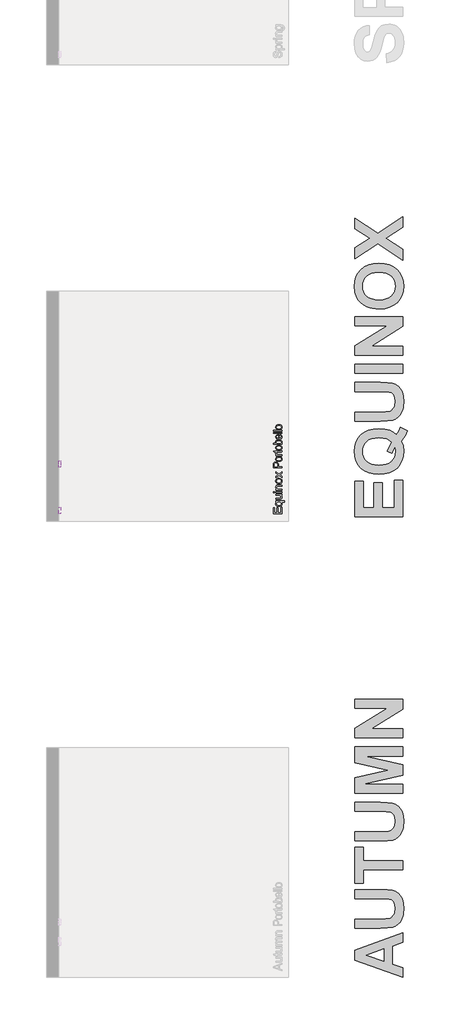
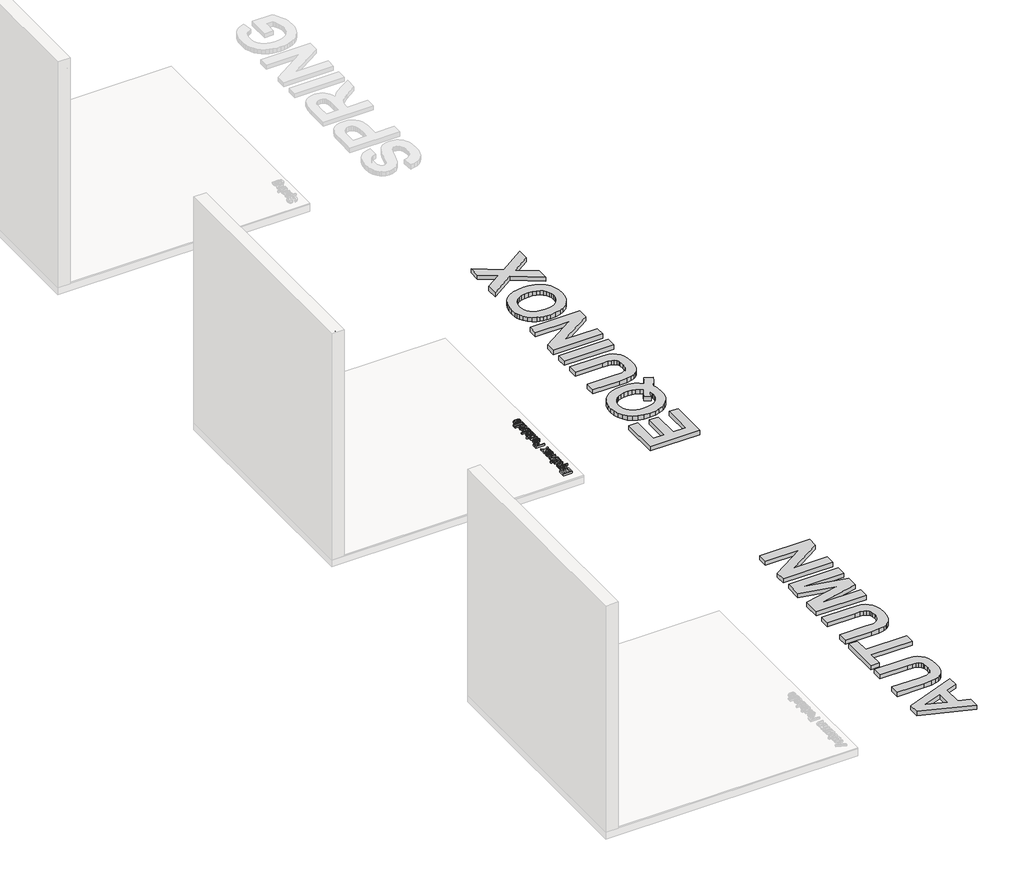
# One storey, part 2 of 7: 6 proxies.
"""IFC4 building model written with IfcOpenShell, lengths in millimetres."""

from ifc_helpers import new_model, si_unit, frame, origin, origin_with_axes, place, context, project, spatial, polyline, outline, extrude, element, save

model = new_model("IFC4")

# Units and contexts
model_context = context("Model", 3, world=origin())
ifc_project = project(units=[si_unit("LENGTHUNIT", "METRE", prefix="MILLI")], contexts=[model_context])

# Site, building, storey
site = spatial("IfcSite", under=ifc_project)
building = spatial("IfcBuilding", under=site)
storey = spatial("IfcBuildingStorey", under=building, Name="PORTOBELLO - SHOWROOM", Elevation=0.0)

# Proxies
placement = place(None, origin())
element("IfcBuildingElementProxy", 1, Name="10mm Arial", ObjectType="10mm Arial", at=placement, inside=storey, context=model_context, shape_type="SweptSolid", body=[
    extrude(outline(polyline([(-3805.1117068, 2482.3811258), (-3805.1117068, 2582.837436), (-3732.9087339, 2582.837436), (-3732.9087339, 2570.2803972), (-3792.5546681, 2570.2803972), (-3792.5546681, 2540.4574301), (-3736.0479936, 2540.4574301), (-3736.0479936, 2527.9003914), (-3792.5546681, 2527.9003914), (-3792.5546681, 2494.9381646), (-3731.3391041, 2494.9381646), (-3731.3391041, 2482.3811258), (-3805.1117068, 2482.3811258)])), frame((-21807.9634769, 0.0, 0.0), z_axis=(1.0, 0.0, 0.0), x_axis=(0.0, 1.0, 0.0)), (0.0, 0.0, 1.0), 20.0),
    extrude(outline(polyline([(-3668.5539102, 2454.1277886), (-3668.5539102, 2492.436567), (-3676.5246868, 2484.1224339), (-3687.4139939, 2480.811496), (-3699.3517646, 2483.4265238), (-3709.511439, 2491.2716074), (-3716.4644087, 2503.6722963), (-3718.7820653, 2519.9541403), (-3715.1032454, 2539.8442935), (-3704.4346675, 2553.1861472), (-3689.106251, 2557.7233584), (-3677.4321291, 2554.203954), (-3668.5539102, 2543.6457408), (-3668.5539102, 2556.1537286), (-3655.9968715, 2556.1537286), (-3655.9968715, 2454.1277886), (-3668.5539102, 2454.1277886)]), holes=[polyline([(-3706.2250265, 2519.2674272), (-3704.8117465, 2507.9366618), (-3700.5719066, 2499.8432579), (-3694.3577665, 2494.9872155), (-3687.0215864, 2493.3685348), (-3679.9919746, 2494.9075078), (-3674.0108265, 2499.5244268), (-3669.9181393, 2507.2867369), (-3668.5539102, 2518.2618831), (-3669.9917157, 2529.9942531), (-3674.3051321, 2538.4095537), (-3680.5560603, 2543.4771282), (-3687.8064013, 2545.1663197), (-3694.9218522, 2543.5936241), (-3700.8662121, 2538.8755376), (-3704.8853229, 2530.8281189), (-3706.2250265, 2519.2674272)])]), frame((-21807.9634769, 0.0, 0.0), z_axis=(1.0, 0.0, 0.0), x_axis=(0.0, 1.0, 0.0)), (0.0, 0.0, 1.0), 20.0),
    extrude(outline(polyline([(-3590.0724179, 2482.3811258), (-3590.0724179, 2495.0607919), (-3599.9071299, 2484.37382), (-3612.7339488, 2480.811496), (-3624.5429609, 2483.3130936), (-3632.6854157, 2489.5916129), (-3636.4255493, 2498.8377138), (-3637.1613133, 2510.5118357), (-3637.1613133, 2556.1537286), (-3624.6042745, 2556.1537286), (-3624.6042745, 2516.4224731), (-3623.8439851, 2503.6201797), (-3618.8775782, 2496.1031243), (-3609.5211127, 2493.3685348), (-3599.0364759, 2496.1644379), (-3592.1080316, 2503.7795952), (-3590.0724179, 2517.7713738), (-3590.0724179, 2556.1537286), (-3577.5153792, 2556.1537286), (-3577.5153792, 2482.3811258), (-3590.0724179, 2482.3811258)])), frame((-21807.9634769, 0.0, 0.0), z_axis=(1.0, 0.0, 0.0), x_axis=(0.0, 1.0, 0.0)), (0.0, 0.0, 1.0), 20.0),
    extrude(outline(polyline([(-21787.9634769, -3547.6924121), (-21787.9634769, -3560.2494509), (-21807.9634769, -3560.2494509), (-21807.9634769, -3547.6924121), (-21787.9634769, -3547.6924121)])), frame((0.0, 0.0, 2482.3811258), z_axis=(0.0, 0.0, 1.0), x_axis=(1.0, 0.0, 0.0)), (0.0, 0.0, 1.0), 73.7726028),
    extrude(outline(polyline([(-21787.9634769, -3547.6924121), (-21787.9634769, -3560.2494509), (-21807.9634769, -3560.2494509), (-21807.9634769, -3547.6924121), (-21787.9634769, -3547.6924121)])), frame((0.0, 0.0, 2570.2803972), z_axis=(0.0, 0.0, 1.0), x_axis=(1.0, 0.0, 0.0)), (0.0, 0.0, 1.0), 12.5570388),
    extrude(outline(polyline([(-3528.8568539, 2482.3811258), (-3528.8568539, 2556.1537286), (-3516.2998152, 2556.1537286), (-3516.2998152, 2545.8530327), (-3506.6980951, 2554.755777), (-3493.5892333, 2557.7233584), (-3481.7311704, 2555.3321255), (-3473.6377665, 2549.0536061), (-3469.8731074, 2539.819768), (-3469.2109198, 2527.6796622), (-3469.2109198, 2482.3811258), (-3481.7679586, 2482.3811258), (-3481.7679586, 2525.987405), (-3483.2149611, 2537.0974412), (-3488.3285208, 2542.9712904), (-3496.9492222, 2545.1663197), (-3510.5731188, 2540.2367009), (-3514.8681411, 2533.0936589), (-3516.2998152, 2521.5237701), (-3516.2998152, 2482.3811258), (-3528.8568539, 2482.3811258)])), frame((-21807.9634769, 0.0, 0.0), z_axis=(1.0, 0.0, 0.0), x_axis=(0.0, 1.0, 0.0)), (0.0, 0.0, 1.0), 20.0),
    extrude(outline(polyline([(-3455.0842512, 2519.2674272), (-3452.3680558, 2537.0545217), (-3444.2194696, 2549.5563782), (-3434.1517656, 2555.6816134), (-3422.0974989, 2557.7233584), (-3408.9058637, 2555.2370893), (-3398.3691102, 2547.7782818), (-3391.4621258, 2535.9355473), (-3389.1597976, 2520.2974968), (-3393.231025, 2497.954797), (-3405.089088, 2485.3119191), (-3422.0974989, 2480.811496), (-3435.4485497, 2483.2885681), (-3445.9730404, 2490.7197844), (-3452.8064485, 2502.8108393), (-3455.0842512, 2519.2674272)]), holes=[polyline([(-3442.5272124, 2519.2919527), (-3441.0740785, 2507.9274647), (-3436.7146769, 2499.8309951), (-3430.1541146, 2494.9841499), (-3422.0974989, 2493.3685348), (-3414.0776714, 2494.9933469), (-3407.5293719, 2499.8677833), (-3403.1699703, 2508.0715518), (-3401.7168364, 2519.6843601), (-3403.1791673, 2530.7177543), (-3407.5661601, 2538.7038593), (-3414.1236567, 2543.5507046), (-3422.0974989, 2545.1663197), (-3430.1541146, 2543.5568359), (-3436.7146769, 2538.7283848), (-3441.0740785, 2530.6503093), (-3442.5272124, 2519.2919527)])]), frame((-21807.9634769, 0.0, 0.0), z_axis=(1.0, 0.0, 0.0), x_axis=(0.0, 1.0, 0.0)), (0.0, 0.0, 1.0), 20.0),
    extrude(outline(polyline([(-3382.8812783, 2482.3811258), (-3356.0504181, 2519.4636309), (-3381.3116484, 2556.1537286), (-3366.2039611, 2556.1537286), (-3354.0148044, 2538.4953928), (-3348.3248962, 2530.1567343), (-3343.3952774, 2536.9748139), (-3329.5138635, 2556.1537286), (-3314.4061762, 2556.1537286), (-3340.9427308, 2519.4636309), (-3315.3871949, 2482.3811258), (-3330.4948821, 2482.3811258), (-3345.8723495, 2504.6747747), (-3348.6927782, 2508.7460022), (-3367.773591, 2482.3811258), (-3382.8812783, 2482.3811258)])), frame((-21807.9634769, 0.0, 0.0), z_axis=(1.0, 0.0, 0.0), x_axis=(0.0, 1.0, 0.0)), (0.0, 0.0, 1.0), 20.0),
])
element("IfcBuildingElementProxy", 2, Name="10mm Arial", ObjectType="10mm Arial", at=placement, inside=storey, context=model_context, shape_type="SweptSolid", body=[
    extrude(outline(polyline([(-3259.9328663, 2482.3811258), (-3259.9328663, 2582.837436), (-3222.7032084, 2582.837436), (-3207.693623, 2581.8809428), (-3195.4922035, 2577.184316), (-3187.5827406, 2567.4722313), (-3184.5906337, 2553.7747584), (-3186.610919, 2541.9350895), (-3192.6717749, 2532.0697206), (-3204.005606, 2525.4110565), (-3221.8448171, 2523.1915018), (-3247.3758276, 2523.1915018), (-3247.3758276, 2482.3811258), (-3259.9328663, 2482.3811258)]), holes=[polyline([(-3247.3758276, 2535.7485406), (-3221.1090531, 2535.7485406), (-3202.6168515, 2540.3593283), (-3198.5149672, 2545.908215), (-3197.1476725, 2553.3333), (-3200.3727713, 2563.7320977), (-3208.8463199, 2569.4220059), (-3221.4033587, 2570.2803972), (-3247.3758276, 2570.2803972), (-3247.3758276, 2535.7485406)])]), frame((-21807.9634769, 0.0, 0.0), z_axis=(1.0, 0.0, 0.0), x_axis=(0.0, 1.0, 0.0)), (0.0, 0.0, 1.0), 20.0),
    extrude(outline(polyline([(-3172.033595, 2519.2674272), (-3169.3173996, 2537.0545217), (-3161.1688134, 2549.5563782), (-3151.1011094, 2555.6816134), (-3139.0468427, 2557.7233584), (-3125.8552075, 2555.2370893), (-3115.318454, 2547.7782818), (-3108.4114696, 2535.9355473), (-3106.1091414, 2520.2974968), (-3110.1803688, 2497.954797), (-3122.0384318, 2485.3119191), (-3139.0468427, 2480.811496), (-3152.3978935, 2483.2885681), (-3162.9223842, 2490.7197844), (-3169.7557923, 2502.8108393), (-3172.033595, 2519.2674272)]), holes=[polyline([(-3159.4765562, 2519.2919527), (-3158.0234223, 2507.9274647), (-3153.6640207, 2499.8309951), (-3147.1034584, 2494.9841499), (-3139.0468427, 2493.3685348), (-3131.0270152, 2494.9933469), (-3124.4787157, 2499.8677833), (-3120.1193141, 2508.0715518), (-3118.6661802, 2519.6843601), (-3120.1285111, 2530.7177543), (-3124.5155039, 2538.7038593), (-3131.0730005, 2543.5507046), (-3139.0468427, 2545.1663197), (-3147.1034584, 2543.5568359), (-3153.6640207, 2538.7283848), (-3158.0234223, 2530.6503093), (-3159.4765562, 2519.2919527)])]), frame((-21807.9634769, 0.0, 0.0), z_axis=(1.0, 0.0, 0.0), x_axis=(0.0, 1.0, 0.0)), (0.0, 0.0, 1.0), 20.0),
    extrude(outline(polyline([(-3091.9824728, 2482.3811258), (-3091.9824728, 2556.1537286), (-3080.9950639, 2556.1537286), (-3080.9950639, 2545.2398961), (-3073.1959656, 2555.2953373), (-3065.3478164, 2557.7233584), (-3052.7417267, 2553.8483348), (-3056.9355814, 2542.5911457), (-3065.7647493, 2545.1663197), (-3072.8648718, 2542.6892476), (-3077.3898203, 2535.822117), (-3079.425434, 2521.1558881), (-3079.425434, 2482.3811258), (-3091.9824728, 2482.3811258)])), frame((-21807.9634769, 0.0, 0.0), z_axis=(1.0, 0.0, 0.0), x_axis=(0.0, 1.0, 0.0)), (0.0, 0.0, 1.0), 20.0),
    extrude(outline(polyline([(-3018.20987, 2492.8535), (-3016.6402402, 2482.0132438), (-3026.0334938, 2480.811496), (-3036.5549189, 2482.8961606), (-3041.8033687, 2488.3653396), (-3043.3239476, 2502.6146356), (-3043.3239476, 2543.5966898), (-3052.7417267, 2543.5966898), (-3052.7417267, 2553.8483348), (-3052.7417267, 2556.1537286), (-3043.3239476, 2556.1537286), (-3043.3239476, 2574.0818445), (-3030.7669088, 2581.4640099), (-3030.7669088, 2556.1537286), (-3018.20987, 2556.1537286), (-3018.20987, 2543.5966898), (-3030.7669088, 2543.5966898), (-3030.7669088, 2502.9825176), (-3030.1047212, 2496.5077944), (-3027.9587429, 2494.2146633), (-3023.679049, 2493.3685348), (-3018.20987, 2492.8535)])), frame((-21807.9634769, 0.0, 0.0), z_axis=(1.0, 0.0, 0.0), x_axis=(0.0, 1.0, 0.0)), (0.0, 0.0, 1.0), 20.0),
    extrude(outline(polyline([(-3008.792091, 2519.2674272), (-3006.0758956, 2537.0545217), (-2997.9273094, 2549.5563782), (-2987.8596054, 2555.6816134), (-2975.8053387, 2557.7233584), (-2962.6137035, 2555.2370893), (-2952.07695, 2547.7782818), (-2945.1699656, 2535.9355473), (-2942.8676374, 2520.2974968), (-2946.9388648, 2497.954797), (-2958.7969278, 2485.3119191), (-2975.8053387, 2480.811496), (-2989.1563895, 2483.2885681), (-2999.6808802, 2490.7197844), (-3006.5142883, 2502.8108393), (-3008.792091, 2519.2674272)]), holes=[polyline([(-2996.2350522, 2519.2919527), (-2994.7819183, 2507.9274647), (-2990.4225167, 2499.8309951), (-2983.8619544, 2494.9841499), (-2975.8053387, 2493.3685348), (-2967.7855112, 2494.9933469), (-2961.2372117, 2499.8677833), (-2956.8778101, 2508.0715518), (-2955.4246762, 2519.6843601), (-2956.8870071, 2530.7177543), (-2961.2739999, 2538.7038593), (-2967.8314965, 2543.5507046), (-2975.8053387, 2545.1663197), (-2983.8619544, 2543.5568359), (-2990.4225167, 2538.7283848), (-2994.7819183, 2530.6503093), (-2996.2350522, 2519.2919527)])]), frame((-21807.9634769, 0.0, 0.0), z_axis=(1.0, 0.0, 0.0), x_axis=(0.0, 1.0, 0.0)), (0.0, 0.0, 1.0), 20.0),
    extrude(outline(polyline([(-2916.1839301, 2482.3811258), (-2928.7409688, 2482.3811258), (-2928.7409688, 2582.837436), (-2916.1839301, 2582.837436), (-2916.1839301, 2545.5832526), (-2907.3915504, 2554.688332), (-2896.4654551, 2557.7233584), (-2883.8838909, 2554.9887689), (-2874.1227553, 2547.3000352), (-2868.1262787, 2535.3438704), (-2865.955775, 2520.3710732), (-2868.2029208, 2503.607917), (-2874.9443584, 2491.1367173), (-2884.8373184, 2483.3928013), (-2896.5390315, 2480.811496), (-2907.7042501, 2484.140828), (-2916.1839301, 2494.1288242), (-2916.1839301, 2482.3811258)]), holes=[polyline([(-2916.1839301, 2519.782462), (-2912.7503648, 2502.2222281), (-2906.1714084, 2495.5819581), (-2897.618152, 2493.3685348), (-2890.3708767, 2494.9994783), (-2884.1781965, 2499.8923088), (-2879.9291594, 2508.0163695), (-2878.5128137, 2519.3410036), (-2879.8709114, 2530.8311846), (-2883.9452045, 2538.8632748), (-2889.9447467, 2543.5905585), (-2897.0785918, 2545.1663197), (-2904.3258671, 2543.5353762), (-2910.5185473, 2538.6425456), (-2914.7675844, 2530.6656377), (-2916.1839301, 2519.782462)])]), frame((-21807.9634769, 0.0, 0.0), z_axis=(1.0, 0.0, 0.0), x_axis=(0.0, 1.0, 0.0)), (0.0, 0.0, 1.0), 20.0),
    extrude(outline(polyline([(-2800.1784742, 2504.3559437), (-2787.8666901, 2502.7863138), (-2792.3027339, 2493.5095562), (-2799.3813966, 2486.5749806), (-2808.9432628, 2482.2523671), (-2820.8289169, 2480.811496), (-2835.5625908, 2483.2977651), (-2846.8994876, 2490.7565726), (-2854.1283688, 2502.7035404), (-2856.5379959, 2518.6542906), (-2854.1038434, 2535.1415353), (-2846.8013858, 2547.4717135), (-2835.6177731, 2555.1604472), (-2821.5401554, 2557.7233584), (-2807.9009305, 2555.1665786), (-2797.0024263, 2547.496239), (-2789.8563186, 2535.1905862), (-2787.4742827, 2518.727867), (-2787.5478591, 2515.3433526), (-2843.9809571, 2515.3433526), (-2841.8073877, 2505.9439676), (-2836.7582073, 2499.0339175), (-2829.4710781, 2494.7848804), (-2820.5836622, 2493.3685348), (-2808.2718781, 2495.9927597), (-2800.1784742, 2504.3559437)]), holes=[polyline([(-2843.9809571, 2527.9003914), (-2800.0313214, 2527.9003914), (-2805.059042, 2539.2802078), (-2812.3798937, 2543.6947917), (-2821.5892064, 2545.1663197), (-2837.0525129, 2540.4696929), (-2841.9177523, 2534.9790541), (-2843.9809571, 2527.9003914)])]), frame((-21807.9634769, 0.0, 0.0), z_axis=(1.0, 0.0, 0.0), x_axis=(0.0, 1.0, 0.0)), (0.0, 0.0, 1.0), 20.0),
    extrude(outline(polyline([(-21787.9634769, -2762.3602051), (-21787.9634769, -2774.9172439), (-21807.9634769, -2774.9172439), (-21807.9634769, -2762.3602051), (-21787.9634769, -2762.3602051)])), frame((0.0, 0.0, 2482.3811258), z_axis=(0.0, 0.0, 1.0), x_axis=(1.0, 0.0, 0.0)), (0.0, 0.0, 1.0), 100.4563101),
    extrude(outline(polyline([(-21787.9634769, -2730.9676082), (-21787.9634769, -2743.524647), (-21807.9634769, -2743.524647), (-21807.9634769, -2730.9676082), (-21787.9634769, -2730.9676082)])), frame((0.0, 0.0, 2482.3811258), z_axis=(0.0, 0.0, 1.0), x_axis=(1.0, 0.0, 0.0)), (0.0, 0.0, 1.0), 100.4563101),
    extrude(outline(polyline([(-2715.2713098, 2519.2674272), (-2712.5551144, 2537.0545217), (-2704.4065282, 2549.5563782), (-2694.3388242, 2555.6816134), (-2682.2845575, 2557.7233584), (-2669.0929223, 2555.2370893), (-2658.5561688, 2547.7782818), (-2651.6491844, 2535.9355473), (-2649.3468562, 2520.2974968), (-2653.4180836, 2497.954797), (-2665.2761466, 2485.3119191), (-2682.2845575, 2480.811496), (-2695.6356083, 2483.2885681), (-2706.160099, 2490.7197844), (-2712.9935071, 2502.8108393), (-2715.2713098, 2519.2674272)]), holes=[polyline([(-2702.714271, 2519.2919527), (-2701.2611371, 2507.9274647), (-2696.9017355, 2499.8309951), (-2690.3411732, 2494.9841499), (-2682.2845575, 2493.3685348), (-2674.26473, 2494.9933469), (-2667.7164305, 2499.8677833), (-2663.3570289, 2508.0715518), (-2661.903895, 2519.6843601), (-2663.3662259, 2530.7177543), (-2667.7532187, 2538.7038593), (-2674.3107153, 2543.5507046), (-2682.2845575, 2545.1663197), (-2690.3411732, 2543.5568359), (-2696.9017355, 2538.7283848), (-2701.2611371, 2530.6503093), (-2702.714271, 2519.2919527)])]), frame((-21807.9634769, 0.0, 0.0), z_axis=(1.0, 0.0, 0.0), x_axis=(0.0, 1.0, 0.0)), (0.0, 0.0, 1.0), 20.0),
])
element("IfcBuildingElementProxy", 3, Name="10mm Arial", ObjectType="10mm Arial", at=placement, inside=storey, context=model_context, shape_type="SweptSolid", body=[
    extrude(outline(polyline([(-19183.5351931, -3805.1117068), (-19283.9915032, -3805.1117068), (-19283.9915032, -3732.9087339), (-19271.4344645, -3732.9087339), (-19271.4344645, -3792.5546681), (-19241.6114974, -3792.5546681), (-19241.6114974, -3736.0479936), (-19229.0544586, -3736.0479936), (-19229.0544586, -3792.5546681), (-19196.0922319, -3792.5546681), (-19196.0922319, -3731.3391041), (-19183.5351931, -3731.3391041), (-19183.5351931, -3805.1117068)])), frame((0.0, 0.0, 15.0), z_axis=(0.0, 0.0, 1.0), x_axis=(1.0, 0.0, 0.0)), (0.0, 0.0, 1.0), 20.0),
    extrude(outline(polyline([(-19155.2818559, -3668.5539102), (-19193.5906343, -3668.5539102), (-19185.2765012, -3676.5246868), (-19181.9655632, -3687.4139939), (-19184.5805911, -3699.3517646), (-19192.4256746, -3709.511439), (-19204.8263636, -3716.4644087), (-19221.1082075, -3718.7820653), (-19240.9983607, -3715.1032454), (-19254.3402144, -3704.4346675), (-19258.8774257, -3689.106251), (-19255.3580213, -3677.4321291), (-19244.799808, -3668.5539102), (-19257.3077959, -3668.5539102), (-19257.3077959, -3655.9968715), (-19155.2818559, -3655.9968715), (-19155.2818559, -3668.5539102)]), holes=[polyline([(-19220.4214945, -3706.2250265), (-19209.090729, -3704.8117465), (-19200.9973251, -3700.5719066), (-19196.1412828, -3694.3577665), (-19194.522602, -3687.0215864), (-19196.061575, -3679.9919746), (-19200.6784941, -3674.0108265), (-19208.4408042, -3669.9181393), (-19219.4159504, -3668.5539102), (-19231.1483203, -3669.9917157), (-19239.563621, -3674.3051321), (-19244.6311954, -3680.5560603), (-19246.3203869, -3687.8064013), (-19244.7476914, -3694.9218522), (-19240.0296048, -3700.8662121), (-19231.9821862, -3704.8853229), (-19220.4214945, -3706.2250265)])]), frame((0.0, 0.0, 15.0), z_axis=(0.0, 0.0, 1.0), x_axis=(1.0, 0.0, 0.0)), (0.0, 0.0, 1.0), 20.0),
    extrude(outline(polyline([(-19183.5351931, -3590.0724179), (-19196.2148592, -3590.0724179), (-19185.5278872, -3599.9071299), (-19181.9655632, -3612.7339488), (-19184.4671608, -3624.5429609), (-19190.7456802, -3632.6854157), (-19199.991781, -3636.4255493), (-19211.665903, -3637.1613133), (-19257.3077959, -3637.1613133), (-19257.3077959, -3624.6042745), (-19217.5765404, -3624.6042745), (-19204.7742469, -3623.8439851), (-19197.2571915, -3618.8775782), (-19194.522602, -3609.5211127), (-19197.3185052, -3599.0364759), (-19204.9336625, -3592.1080316), (-19218.925441, -3590.0724179), (-19257.3077959, -3590.0724179), (-19257.3077959, -3577.5153792), (-19183.5351931, -3577.5153792), (-19183.5351931, -3590.0724179)])), frame((0.0, 0.0, 15.0), z_axis=(0.0, 0.0, 1.0), x_axis=(1.0, 0.0, 0.0)), (0.0, 0.0, 1.0), 20.0),
    extrude(outline(polyline([(-19271.4344645, -3560.2494509), (-19283.9915032, -3560.2494509), (-19283.9915032, -3547.6924121), (-19271.4344645, -3547.6924121), (-19271.4344645, -3560.2494509)])), frame((0.0, 0.0, 15.0), z_axis=(0.0, 0.0, 1.0), x_axis=(1.0, 0.0, 0.0)), (0.0, 0.0, 1.0), 20.0),
    extrude(outline(polyline([(-19183.5351931, -3560.2494509), (-19257.3077959, -3560.2494509), (-19257.3077959, -3547.6924121), (-19183.5351931, -3547.6924121), (-19183.5351931, -3560.2494509)])), frame((0.0, 0.0, 15.0), z_axis=(0.0, 0.0, 1.0), x_axis=(1.0, 0.0, 0.0)), (0.0, 0.0, 1.0), 20.0),
    extrude(outline(polyline([(-19183.5351931, -3528.8568539), (-19257.3077959, -3528.8568539), (-19257.3077959, -3516.2998152), (-19247.0071, -3516.2998152), (-19255.9098443, -3506.6980951), (-19258.8774257, -3493.5892333), (-19256.4861927, -3481.7311704), (-19250.2076733, -3473.6377665), (-19240.9738353, -3469.8731074), (-19228.8337294, -3469.2109198), (-19183.5351931, -3469.2109198), (-19183.5351931, -3481.7679586), (-19227.1414722, -3481.7679586), (-19238.2515085, -3483.2149611), (-19244.1253577, -3488.3285208), (-19246.3203869, -3496.9492222), (-19241.3907682, -3510.5731188), (-19234.2477261, -3514.8681411), (-19222.6778374, -3516.2998152), (-19183.5351931, -3516.2998152), (-19183.5351931, -3528.8568539)])), frame((0.0, 0.0, 15.0), z_axis=(0.0, 0.0, 1.0), x_axis=(1.0, 0.0, 0.0)), (0.0, 0.0, 1.0), 20.0),
    extrude(outline(polyline([(-19220.4214945, -3455.0842512), (-19238.2085889, -3452.3680558), (-19250.7104454, -3444.2194696), (-19256.8356806, -3434.1517656), (-19258.8774257, -3422.0974989), (-19256.3911565, -3408.9058637), (-19248.9323491, -3398.3691102), (-19237.0896145, -3391.4621258), (-19221.4515641, -3389.1597976), (-19199.1088642, -3393.231025), (-19186.4659863, -3405.089088), (-19181.9655632, -3422.0974989), (-19184.4426353, -3435.4485497), (-19191.8738516, -3445.9730404), (-19203.9649066, -3452.8064485), (-19220.4214945, -3455.0842512)]), holes=[polyline([(-19220.4460199, -3442.5272124), (-19209.081532, -3441.0740785), (-19200.9850624, -3436.7146769), (-19196.1382171, -3430.1541146), (-19194.522602, -3422.0974989), (-19196.1474142, -3414.0776714), (-19201.0218506, -3407.5293719), (-19209.2256191, -3403.1699703), (-19220.8384274, -3401.7168364), (-19231.8718216, -3403.1791673), (-19239.8579265, -3407.5661601), (-19244.7047718, -3414.1236567), (-19246.3203869, -3422.0974989), (-19244.7109032, -3430.1541146), (-19239.882452, -3436.7146769), (-19231.8043765, -3441.0740785), (-19220.4460199, -3442.5272124)])]), frame((0.0, 0.0, 15.0), z_axis=(0.0, 0.0, 1.0), x_axis=(1.0, 0.0, 0.0)), (0.0, 0.0, 1.0), 20.0),
    extrude(outline(polyline([(-19183.5351931, -3382.8812783), (-19220.6176982, -3356.0504181), (-19257.3077959, -3381.3116484), (-19257.3077959, -3366.2039611), (-19239.6494601, -3354.0148044), (-19231.3108015, -3348.3248962), (-19238.1288812, -3343.3952774), (-19257.3077959, -3329.5138635), (-19257.3077959, -3314.4061762), (-19220.6176982, -3340.9427308), (-19183.5351931, -3315.3871949), (-19183.5351931, -3330.4948821), (-19205.828842, -3345.8723495), (-19209.9000694, -3348.6927782), (-19183.5351931, -3367.773591), (-19183.5351931, -3382.8812783)])), frame((0.0, 0.0, 15.0), z_axis=(0.0, 0.0, 1.0), x_axis=(1.0, 0.0, 0.0)), (0.0, 0.0, 1.0), 20.0),
])
element("IfcBuildingElementProxy", 4, Name="10mm Arial Narrow", ObjectType="10mm Arial Narrow", at=placement, inside=storey, context=model_context, shape_type="SweptSolid", body=[
    extrude(outline(polyline([(-19183.5351931, -3262.7978072), (-19284.2537968, -3262.7978072), (-19284.2537968, -3231.5009225), (-19282.3754761, -3215.205221), (-19272.8950329, -3203.7322349), (-19255.8759241, -3199.4425565), (-19243.8000986, -3201.2288649), (-19234.1737048, -3206.5877901), (-19227.8724464, -3216.3315789), (-19225.7720269, -3231.2724781), (-19225.7720269, -3253.0508456), (-19183.5351931, -3253.0508456), (-19183.5351931, -3262.7978072)]), holes=[polyline([(-19237.1434822, -3253.0508456), (-19237.1434822, -3230.0794906), (-19241.6742964, -3214.2152952), (-19255.3428871, -3209.1895181), (-19265.5086636, -3211.6643326), (-19271.3086134, -3217.6419614), (-19272.8823416, -3230.307935), (-19272.8823416, -3253.0508456), (-19237.1434822, -3253.0508456)])]), frame((0.0, 0.0, 15.0), z_axis=(0.0, 0.0, 1.0), x_axis=(1.0, 0.0, 0.0)), (0.0, 0.0, 1.0), 20.0),
    extrude(outline(polyline([(-19220.0862993, -3191.3200884), (-19236.6770748, -3189.3656196), (-19248.6291597, -3183.5022129), (-19255.8537142, -3174.6436462), (-19258.2618991, -3163.7036971), (-19255.8537142, -3152.8906615), (-19248.6291597, -3144.0067121), (-19236.8674452, -3138.0671573), (-19220.8477807, -3136.0873057), (-19203.6858941, -3138.0322561), (-19191.5434389, -3143.8671071), (-19184.3188843, -3152.7161553), (-19181.9106995, -3163.7036971), (-19184.32523, -3174.5643252), (-19191.5688216, -3183.4387562), (-19203.5272521, -3189.3497554), (-19220.0862993, -3191.3200884)]), holes=[polyline([(-19220.111682, -3181.5731268), (-19207.5599306, -3180.2690899), (-19198.6886725, -3176.3569793), (-19193.415414, -3170.5157826), (-19191.6576611, -3163.4244872), (-19193.4312782, -3156.7044141), (-19198.7521293, -3151.0123408), (-19207.6392516, -3147.1287857), (-19220.111682, -3145.8342674), (-19232.6253593, -3147.1383042), (-19241.483926, -3151.0504148), (-19246.7571846, -3156.8916116), (-19248.5149374, -3163.9829069), (-19246.7476661, -3170.7505727), (-19241.445852, -3176.4331275), (-19232.5777667, -3180.2881269), (-19220.111682, -3181.5731268)])]), frame((0.0, 0.0, 15.0), z_axis=(0.0, 0.0, 1.0), x_axis=(1.0, 0.0, 0.0)), (0.0, 0.0, 1.0), 20.0),
    extrude(outline(polyline([(-19191.6576611, -3064.6095869), (-19181.9106995, -3062.9850933), (-19181.9106995, -3070.34608), (-19184.030156, -3078.6208443), (-19189.8301058, -3082.9359055), (-19204.475931, -3084.1035102), (-19246.8904438, -3084.1035102), (-19246.8904438, -3092.2259783), (-19250.1394311, -3092.2259783), (-19245.2659502, -3093.8504719), (-19246.8904438, -3101.4145203), (-19244.5679256, -3107.4936799), (-19238.0826426, -3111.3645436), (-19222.675336, -3113.3443952), (-19183.5351931, -3113.3443952), (-19183.5351931, -3123.0913569), (-19256.6374055, -3123.0913569), (-19256.6374055, -3113.3443952), (-19246.9412093, -3113.3443952), (-19256.0282204, -3107.1002479), (-19258.2618991, -3100.7038043), (-19256.6374055, -3092.2259783), (-19256.6374055, -3084.1035102), (-19272.8823416, -3084.1035102), (-19281.0048096, -3074.3565486), (-19256.6374055, -3074.3565486), (-19256.6374055, -3064.6095869), (-19246.8904438, -3064.6095869), (-19246.8904438, -3074.3565486), (-19202.2422523, -3074.3565486), (-19194.2466978, -3073.4935364), (-19191.6576611, -3068.8738827), (-19191.6576611, -3064.6095869)])), frame((0.0, 0.0, 15.0), z_axis=(0.0, 0.0, 1.0), x_axis=(1.0, 0.0, 0.0)), (0.0, 0.0, 1.0), 20.0),
    extrude(outline(polyline([(-19220.0862993, -3058.1116125), (-19236.6770748, -3056.1571436), (-19248.6291597, -3050.293737), (-19255.8537142, -3041.4351703), (-19258.2618991, -3030.4952211), (-19255.8537142, -3019.6821856), (-19248.6291597, -3010.7982361), (-19236.8674452, -3004.8586814), (-19220.8477807, -3002.8788298), (-19203.6858941, -3004.8237802), (-19191.5434389, -3010.6586312), (-19184.3188843, -3019.5076794), (-19181.9106995, -3030.4952211), (-19184.32523, -3041.3558493), (-19191.5688216, -3050.2302802), (-19203.5272521, -3056.1412794), (-19220.0862993, -3058.1116125)]), holes=[polyline([(-19220.111682, -3048.3646508), (-19207.5599306, -3047.060614), (-19198.6886725, -3043.1485034), (-19193.415414, -3037.3073067), (-19191.6576611, -3030.2160113), (-19193.4312782, -3023.4959381), (-19198.7521293, -3017.8038648), (-19207.6392516, -3013.9203098), (-19220.111682, -3012.6257914), (-19232.6253593, -3013.9298283), (-19241.483926, -3017.8419389), (-19246.7571846, -3023.6831356), (-19248.5149374, -3030.774431), (-19246.7476661, -3037.5420967), (-19241.445852, -3043.2246515), (-19232.5777667, -3047.079651), (-19220.111682, -3048.3646508)])]), frame((0.0, 0.0, 15.0), z_axis=(0.0, 0.0, 1.0), x_axis=(1.0, 0.0, 0.0)), (0.0, 0.0, 1.0), 20.0),
    extrude(outline(polyline([(-19183.5351931, -2980.1359193), (-19183.5351931, -2989.8828809), (-19284.2537968, -2989.8828809), (-19284.2537968, -2980.1359193), (-19248.8449127, -2980.1359193), (-19255.9266895, -2972.7368585), (-19258.2618991, -2963.5356252), (-19254.0610602, -2950.6538985), (-19241.3316298, -2941.3765171), (-19220.644719, -2937.8990854), (-19204.1903755, -2939.8313444), (-19191.9876364, -2945.6281214), (-19184.4299337, -2954.0012438), (-19181.9106995, -2963.6625388), (-19184.5251189, -2973.003377), (-19192.2922289, -2980.1359193), (-19183.5351931, -2980.1359193)]), holes=[polyline([(-19220.644719, -2980.1359193), (-19203.3971657, -2978.0545368), (-19194.6655126, -2972.1657475), (-19191.6576611, -2963.7133042), (-19193.4471424, -2957.7705766), (-19198.8155861, -2952.5322193), (-19220.2385956, -2947.6460471), (-19241.6742964, -2952.3545403), (-19246.8047772, -2957.5992433), (-19248.5149374, -2963.9163659), (-19246.7254562, -2969.8939947), (-19241.3570125, -2975.1862903), (-19220.644719, -2980.1359193)])]), frame((0.0, 0.0, 15.0), z_axis=(0.0, 0.0, 1.0), x_axis=(1.0, 0.0, 0.0)), (0.0, 0.0, 1.0), 20.0),
    extrude(outline(polyline([(-19206.2781036, -2885.91529), (-19204.65361, -2876.1683283), (-19194.7670434, -2879.8678587), (-19187.6471925, -2885.6868455), (-19183.3448227, -2893.3904988), (-19181.9106995, -2902.7440284), (-19184.32523, -2914.3375824), (-19191.5688216, -2923.4817047), (-19203.3749559, -2929.4212594), (-19219.4771142, -2931.401111), (-19236.1440379, -2929.4117409), (-19248.3245671, -2923.4436306), (-19255.7775661, -2914.4295948), (-19258.2618991, -2903.3024481), (-19255.8632328, -2892.6194989), (-19248.6672337, -2883.8719816), (-19236.9277291, -2878.0371305), (-19220.8985461, -2876.0921802), (-19217.6495589, -2876.1683283), (-19217.6495589, -2921.6541493), (-19198.206401, -2915.6511378), (-19193.2948461, -2909.7211016), (-19191.6576611, -2902.6171149), (-19195.3127718, -2892.4386471), (-19206.2781036, -2885.91529)]), holes=[polyline([(-19227.3965205, -2920.9941988), (-19227.3965205, -2885.91529), (-19241.661605, -2890.1795857), (-19246.8016043, -2896.0049182), (-19248.5149374, -2903.2263), (-19242.8038271, -2915.4353848), (-19227.3965205, -2920.9941988)])]), frame((0.0, 0.0, 15.0), z_axis=(0.0, 0.0, 1.0), x_axis=(1.0, 0.0, 0.0)), (0.0, 0.0, 1.0), 20.0),
    extrude(outline(polyline([(-19183.5351931, -2863.1723794), (-19284.2537968, -2863.1723794), (-19284.2537968, -2853.4254178), (-19183.5351931, -2853.4254178), (-19183.5351931, -2863.1723794)])), frame((0.0, 0.0, 15.0), z_axis=(0.0, 0.0, 1.0), x_axis=(1.0, 0.0, 0.0)), (0.0, 0.0, 1.0), 20.0),
    extrude(outline(polyline([(-19183.5351931, -2837.1804817), (-19284.2537968, -2837.1804817), (-19284.2537968, -2827.43352), (-19183.5351931, -2827.43352), (-19183.5351931, -2837.1804817)])), frame((0.0, 0.0, 15.0), z_axis=(0.0, 0.0, 1.0), x_axis=(1.0, 0.0, 0.0)), (0.0, 0.0, 1.0), 20.0),
    extrude(outline(polyline([(-19220.0862993, -2816.0620648), (-19236.6770748, -2814.1075959), (-19248.6291597, -2808.2441893), (-19255.8537142, -2799.3856226), (-19258.2618991, -2788.4456734), (-19255.8537142, -2777.6326378), (-19248.6291597, -2768.7486884), (-19236.8674452, -2762.8091337), (-19220.8477807, -2760.8292821), (-19203.6858941, -2762.7742324), (-19191.5434389, -2768.6090835), (-19184.3188843, -2777.4581317), (-19181.9106995, -2788.4456734), (-19184.32523, -2799.3063016), (-19191.5688216, -2808.1807325), (-19203.5272521, -2814.0917317), (-19220.0862993, -2816.0620648)]), holes=[polyline([(-19220.111682, -2806.3151031), (-19207.5599306, -2805.0110663), (-19198.6886725, -2801.0989557), (-19193.415414, -2795.2577589), (-19191.6576611, -2788.1664636), (-19193.4312782, -2781.4463904), (-19198.7521293, -2775.7543171), (-19207.6392516, -2771.8707621), (-19220.111682, -2770.5762437), (-19232.6253593, -2771.8802806), (-19241.483926, -2775.7923912), (-19246.7571846, -2781.6335879), (-19248.5149374, -2788.7248833), (-19246.7476661, -2795.492549), (-19241.445852, -2801.1751038), (-19232.5777667, -2805.0301033), (-19220.111682, -2806.3151031)])]), frame((0.0, 0.0, 15.0), z_axis=(0.0, 0.0, 1.0), x_axis=(1.0, 0.0, 0.0)), (0.0, 0.0, 1.0), 20.0),
])
element("IfcBuildingElementProxy", 5, Name="600mm Arial", ObjectType="600mm Arial", at=placement, inside=storey, context=model_context, shape_type="SweptSolid", body=[
    extrude(outline(polyline([(-17762.2704876, -8728.0935975), (-17762.2704876, -8840.4056349), (-17886.9688587, -8884.3840782), (-17886.9688587, -9096.3434747), (-17762.2704876, -9139.7652289), (-17762.2704876, -9253.6081614), (-18323.4131576, -9048.7465518), (-18323.4131576, -8934.9036192), (-17762.2704876, -8728.0935975)]), holes=[polyline([(-17984.9461503, -8918.6204614), (-18189.80776, -8990.8508795), (-17984.9461503, -9062.1070915), (-17984.9461503, -8918.6204614)])]), origin_with_axes(), (0.0, 0.0, 1.0), 50.0),
    extrude(outline(polyline([(-18323.4131576, -8674.6514384), (-18323.4131576, -8567.7671203), (-18020.7134286, -8567.7671203), (-17961.2868612, -8566.618949), (-17927.1896503, -8563.1744348), (-17896.3107987, -8549.779102), (-17872.1470099, -8525.4587444), (-17863.0442724, -8509.2016814), (-17856.542317, -8490.2133622), (-17851.3407527, -8444.0429553), (-17856.2465759, -8397.9247379), (-17862.3788549, -8379.7323103), (-17870.9640455, -8364.7843366), (-17892.8314914, -8343.4387867), (-17919.1872437, -8332.7051239), (-17957.2334682, -8328.6343345), (-18014.1723311, -8327.2774046), (-18323.4131576, -8327.2774046), (-18323.4131576, -8220.3930866), (-18029.063766, -8220.3930866), (-17942.8813259, -8222.7242224), (-17886.4121696, -8229.7176299), (-17848.0180143, -8242.9737905), (-17816.0605774, -8264.0931854), (-17790.2615143, -8293.3715557), (-17770.3424804, -8331.1046426), (-17757.6082159, -8379.4844096), (-17753.3634611, -8440.7028203), (-17757.9909397, -8512.4113423), (-17763.775288, -8540.8807737), (-17771.8733756, -8564.4269854), (-17793.1667358, -8602.1774688), (-17820.0269876, -8631.0905119), (-17850.4013398, -8651.4096661), (-17882.2370009, -8663.378483), (-17941.8723268, -8671.8331996), (-18024.4710805, -8674.6514384), (-18323.4131576, -8674.6514384)])), origin_with_axes(), (0.0, 0.0, 1.0), 50.0),
    extrude(outline(polyline([(-17762.2704876, -7988.8103974), (-18225.435866, -7988.8103974), (-18225.435866, -8149.1368745), (-18323.4131576, -8149.1368745), (-18323.4131576, -7721.5996021), (-18225.435866, -7721.5996021), (-18225.435866, -7881.9260793), (-17762.2704876, -7881.9260793), (-17762.2704876, -7988.8103974)])), origin_with_axes(), (0.0, 0.0, 1.0), 50.0),
    extrude(outline(polyline([(-18323.4131576, -7650.3433901), (-18323.4131576, -7543.459072), (-18020.7134286, -7543.459072), (-17961.2868612, -7542.3109006), (-17927.1896503, -7538.8663864), (-17896.3107987, -7525.4710536), (-17872.1470099, -7501.1506961), (-17863.0442724, -7484.893633), (-17856.542317, -7465.9053138), (-17851.3407527, -7419.7349069), (-17856.2465759, -7373.6166896), (-17862.3788549, -7355.4242619), (-17870.9640455, -7340.4762882), (-17892.8314914, -7319.1307384), (-17919.1872437, -7308.3970756), (-17957.2334682, -7304.3262861), (-18014.1723311, -7302.9693563), (-18323.4131576, -7302.9693563), (-18323.4131576, -7196.0850382), (-18029.063766, -7196.0850382), (-17942.8813259, -7198.416174), (-17886.4121696, -7205.4095816), (-17848.0180143, -7218.6657421), (-17816.0605774, -7239.785137), (-17790.2615143, -7269.0635073), (-17770.3424804, -7306.7965942), (-17757.6082159, -7355.1763613), (-17753.3634611, -7416.394772), (-17757.9909397, -7488.103294), (-17763.775288, -7516.5727254), (-17771.8733756, -7540.118937), (-17793.1667358, -7577.8694205), (-17820.0269876, -7606.7824636), (-17850.4013398, -7627.1016178), (-17882.2370009, -7639.0704346), (-17941.8723268, -7647.5251512), (-18024.4710805, -7650.3433901), (-18323.4131576, -7650.3433901)])), origin_with_axes(), (0.0, 0.0, 1.0), 50.0),
    extrude(outline(polyline([(-17762.2704876, -7089.2007201), (-18323.4131576, -7089.2007201), (-18323.4131576, -6906.0499875), (-17940.6893624, -6817.5364116), (-18323.4131576, -6729.0228357), (-18323.4131576, -6545.8721031), (-17762.2704876, -6545.8721031), (-17762.2704876, -6652.7564212), (-18204.0033335, -6657.2099345), (-17762.2704876, -6754.9088815), (-17762.2704876, -6880.0247695), (-18204.0033335, -6977.8628887), (-17762.2704876, -6982.316402), (-17762.2704876, -7089.2007201)])), origin_with_axes(), (0.0, 0.0, 1.0), 50.0),
    extrude(outline(polyline([(-17762.2704876, -6438.987785), (-18323.4131576, -6438.987785), (-18323.4131576, -6326.9540922), (-17945.6995648, -6091.6137512), (-18323.4131576, -6091.6137512), (-18323.4131576, -5984.7294332), (-17762.2704876, -5984.7294332), (-17762.2704876, -6100.2424332), (-18134.4171889, -6332.1034669), (-17762.2704876, -6332.1034669), (-17762.2704876, -6438.987785)])), origin_with_axes(), (0.0, 0.0, 1.0), 50.0),
])
element("IfcBuildingElementProxy", 6, Name="600mm Arial", ObjectType="600mm Arial", at=placement, inside=storey, context=model_context, shape_type="SweptSolid", body=[
    extrude(outline(polyline([(-17762.2704876, -3840.1660024), (-18323.4131576, -3840.1660024), (-18323.4131576, -3421.5357565), (-18225.435866, -3421.5357565), (-18225.435866, -3733.2816843), (-18100.7374949, -3733.2816843), (-18100.7374949, -3439.3498095), (-18002.7602033, -3439.3498095), (-18002.7602033, -3733.2816843), (-17860.2477792, -3733.2816843), (-17860.2477792, -3412.62873), (-17762.2704876, -3412.62873), (-17762.2704876, -3840.1660024)])), origin_with_axes(), (0.0, 0.0, 1.0), 50.0),
    extrude(outline(polyline([(-17836.1709732, -2877.3721058), (-17809.5542729, -2834.9941438), (-17788.9915672, -2789.1368745), (-17708.8283286, -2829.7751829), (-17728.8691382, -2878.6246564), (-17777.1619226, -2951.9684528), (-17766.7500957, -2979.6289453), (-17759.3130765, -3008.7507468), (-17753.3634611, -3071.3782769), (-17758.1127155, -3131.2658526), (-17772.3604786, -3184.2817965), (-17796.1067504, -3230.4261087), (-17829.351531, -3269.698789), (-17871.1902005, -3301.0560454), (-17920.7181389, -3323.4540857), (-17977.9353463, -3336.8929099), (-18042.8418226, -3341.372518), (-18107.5786828, -3336.8581168), (-18164.7045583, -3323.3149134), (-18214.2194493, -3300.7429078), (-18256.1233558, -3269.1420999), (-18289.4594682, -3229.8085316), (-18313.270977, -3184.038245), (-18327.5578823, -3131.8312401), (-18332.3201841, -3073.1875167), (-18327.579628, -3015.0569912), (-18313.3579597, -2963.2762013), (-18289.6551792, -2917.8451472), (-18256.4712865, -2878.7638287), (-18214.7543928, -2847.3456844), (-18165.4526094, -2824.9041528), (-18108.5659362, -2811.4392338), (-18044.0943732, -2806.9509275), (-17976.2478823, -2812.1003022), (-17917.1692455, -2827.5484263), (-17875.9742479, -2847.7979944), (-17836.1709732, -2877.3721058)]), holes=[polyline([(-17897.2676081, -2966.024854), (-17925.4152036, -2943.148409), (-17958.9209322, -2926.8478546), (-17997.784794, -2917.0883979), (-18042.0067889, -2913.8352456), (-18087.3117182, -2916.6012948), (-18126.501765, -2924.8994426), (-18159.5769293, -2938.7296888), (-18186.5372112, -2958.0920336), (-18207.4521968, -2981.9339863), (-18222.3914722, -3009.2030568), (-18231.3550375, -3039.8992448), (-18234.3428925, -3074.0225504), (-18231.3767831, -3108.0980156), (-18222.4784549, -3138.7898545), (-18207.6479078, -3166.0980671), (-18186.8851419, -3190.0226535), (-18160.1640624, -3209.47633), (-18127.4585744, -3223.3718133), (-18088.7686781, -3231.7091032), (-18044.0943732, -3234.4881999), (-17998.7763966, -3231.7482454), (-17959.5472075, -3223.5283821), (-17926.4068062, -3209.8286099), (-17899.3551925, -3190.6489288), (-17878.3488751, -3167.2853807), (-17863.3443627, -3141.0340077), (-17854.3416552, -3111.8948096), (-17851.3407527, -3079.8677866), (-17853.1499925, -3055.6170152), (-17858.5777117, -3032.6883806), (-17874.7912834, -3066.5072468), (-17886.9688587, -3100.8828023), (-17949.3180443, -3069.9865541), (-17927.6071672, -3016.7879465), (-17897.2676081, -2966.024854)])]), origin_with_axes(), (0.0, 0.0, 1.0), 50.0),
    extrude(outline(polyline([(-18323.4131576, -2717.8806624), (-18323.4131576, -2610.9963443), (-18020.7134286, -2610.9963443), (-17961.2868612, -2609.848173), (-17927.1896503, -2606.4036588), (-17896.3107987, -2593.008326), (-17872.1470099, -2568.6879684), (-17863.0442724, -2552.4309054), (-17856.542317, -2533.4425862), (-17851.3407527, -2487.2721793), (-17856.2465759, -2441.1539619), (-17862.3788549, -2422.9615343), (-17870.9640455, -2408.0135606), (-17892.8314914, -2386.6680107), (-17919.1872437, -2375.9343479), (-17957.2334682, -2371.8635585), (-18014.1723311, -2370.5066286), (-18323.4131576, -2370.5066286), (-18323.4131576, -2263.6223105), (-18029.063766, -2263.6223105), (-17942.8813259, -2265.9534464), (-17886.4121696, -2272.9468539), (-17848.0180143, -2286.2030145), (-17816.0605774, -2307.3224093), (-17790.2615143, -2336.6007797), (-17770.3424804, -2374.3338666), (-17757.6082159, -2422.7136336), (-17753.3634611, -2483.9320443), (-17757.9909397, -2555.6405663), (-17763.775288, -2584.1099977), (-17771.8733756, -2607.6562094), (-17793.1667358, -2645.4066928), (-17820.0269876, -2674.3197359), (-17850.4013398, -2694.6388901), (-17882.2370009, -2706.607707), (-17941.8723268, -2715.0624236), (-18024.4710805, -2717.8806624), (-18323.4131576, -2717.8806624)])), origin_with_axes(), (0.0, 0.0, 1.0), 50.0),
    extrude(outline(polyline([(-17762.2704876, -2156.7379925), (-18323.4131576, -2156.7379925), (-18323.4131576, -2049.8536744), (-17762.2704876, -2049.8536744), (-17762.2704876, -2156.7379925)])), origin_with_axes(), (0.0, 0.0, 1.0), 50.0),
    extrude(outline(polyline([(-17762.2704876, -1942.9693563), (-18323.4131576, -1942.9693563), (-18323.4131576, -1830.9356635), (-17945.6995648, -1595.5953225), (-18323.4131576, -1595.5953225), (-18323.4131576, -1488.7110044), (-17762.2704876, -1488.7110044), (-17762.2704876, -1604.2240044), (-18134.4171889, -1836.0850382), (-17762.2704876, -1836.0850382), (-17762.2704876, -1942.9693563)])), origin_with_axes(), (0.0, 0.0, 1.0), 50.0),
    extrude(outline(polyline([(-18039.3625154, -1399.6407393), (-18080.4357372, -1398.0663528), (-18118.0644449, -1393.3431932), (-18152.2486385, -1385.4712606), (-18182.9883178, -1374.450555), (-18223.5396436, -1352.2351783), (-18259.7418353, -1323.1655664), (-18289.3681364, -1289.1205452), (-18310.1917901, -1251.9789405), (-18319.8729625, -1225.2404644), (-18326.7880856, -1196.5187833), (-18332.3201841, -1133.1258055), (-18327.5230893, -1075.2823228), (-18313.1318047, -1023.5276278), (-18289.1463305, -977.8617204), (-18255.5666666, -938.2846007), (-18213.4453035, -906.3184655), (-18163.8347315, -883.4855118), (-18106.7349508, -869.7857396), (-18042.1459612, -865.2191489), (-17977.9962341, -869.7509465), (-17921.240035, -883.3463395), (-17871.8773636, -906.0053279), (-17829.9082202, -937.7279115), (-17796.4198881, -977.0440832), (-17772.4996509, -1022.4838356), (-17758.1475086, -1074.0471688), (-17753.3634611, -1131.7340826), (-17758.1257629, -1190.0298753), (-17772.4126682, -1242.0281218), (-17796.2241771, -1287.7288223), (-17829.5602895, -1327.1319766), (-17871.2467392, -1358.8545603), (-17920.1092601, -1381.5135486), (-17976.1478522, -1395.1089416), (-18039.3625154, -1399.6407393)]), holes=[polyline([(-18043.2593395, -1292.7564212), (-17998.8720775, -1289.9164367), (-17960.2082759, -1281.3964831), (-17927.2679347, -1267.1965605), (-17900.0510539, -1247.3166688), (-17878.7402971, -1223.0615483), (-17863.518328, -1195.7359391), (-17854.3851465, -1165.3398413), (-17851.3407527, -1131.8732549), (-17854.3634009, -1098.4414616), (-17863.4313453, -1068.149743), (-17878.5445861, -1040.9980992), (-17899.7031232, -1016.9865302), (-17926.9069566, -997.35019), (-17960.1560863, -983.3242328), (-17999.4505123, -974.9086584), (-18044.7902347, -972.1034669), (-18089.4993326, -974.8347231), (-18128.1544359, -983.0284916), (-18160.7555446, -996.6847725), (-18187.3026588, -1015.8035658), (-18207.8827611, -1039.4454584), (-18222.5828341, -1066.6710374), (-18231.4028779, -1097.480303), (-18234.3428925, -1131.8732549), (-18231.3680849, -1166.301), (-18222.4436618, -1197.2146447), (-18207.5696234, -1224.6141891), (-18186.7459696, -1248.4996333), (-18159.9292092, -1267.861978), (-18127.0758507, -1281.6922242), (-18088.1858941, -1289.990372), (-18043.2593395, -1292.7564212)])]), origin_with_axes(), (0.0, 0.0, 1.0), 50.0),
    extrude(outline(polyline([(-17762.2704876, -825.1375296), (-18056.480707, -633.775632), (-18323.4131576, -807.3234766), (-18323.4131576, -682.3467609), (-18152.6487588, -571.2872741), (-18323.4131576, -460.2277873), (-18323.4131576, -335.2510717), (-18056.480707, -508.7989163), (-17762.2704876, -317.4370186), (-17762.2704876, -442.4137343), (-17960.4518274, -571.2872741), (-17762.2704876, -700.1608139), (-17762.2704876, -825.1375296)])), origin_with_axes(), (0.0, 0.0, 1.0), 50.0),
])

save(model, "model.ifc")
